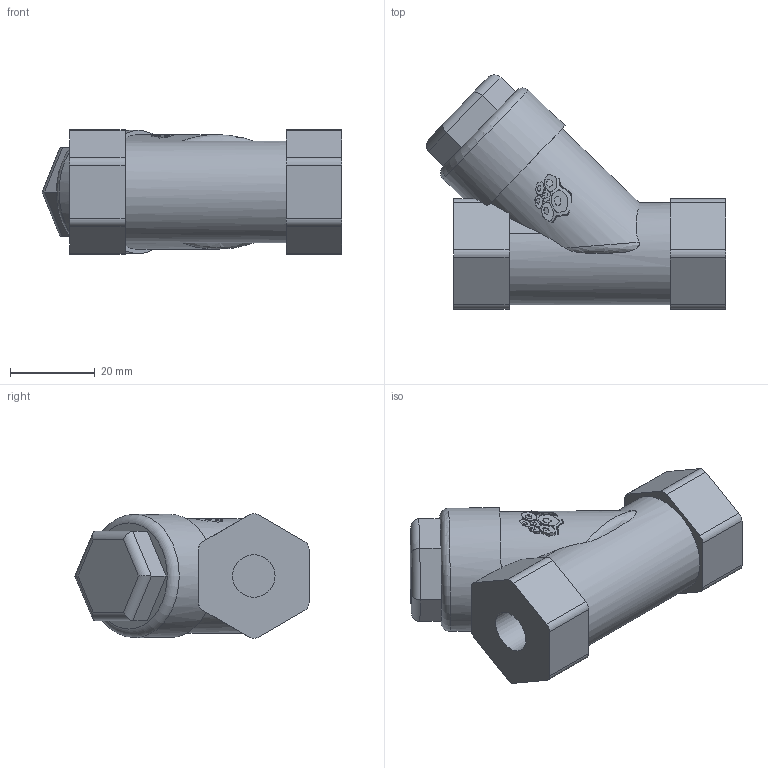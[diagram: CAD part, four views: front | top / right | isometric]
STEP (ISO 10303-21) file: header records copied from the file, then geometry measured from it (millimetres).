
FILE_DESCRIPTION(('STEP AP203'), '1');
FILE_NAME('3D_6460-008-40', '', ('UNSPECIFIED'), ('UNSPECIFIED'), 'C3D Converter', 'C3D Toolkit', '');
FILE_SCHEMA(('CONFIG_CONTROL_DESIGN'));
Length unit declared in the file: millimetre
Bounding box: 70.47 x 55.12 x 29.4 mm (x, y, z)
Volume: 50302.5 mm3; surface area: 10197.8 mm2
Topology: 1 solids, 1 shells, 881 faces, 2580 edges, 1719 vertices
Faces by surface type: plane 848, cylinder 30, bspline 2, torus 1
Full cylindrical faces by diameter (mm): 10 x2, 24 x1, 29 x1
Entity records: 37314 total; most frequent: CARTESIAN_POINT 9167, ORIENTED_EDGE 5150, DIRECTION 3555, EDGE_CURVE 2575, VERTEX_POINT 1719, LINE 1717, VECTOR 1717, AXIS2_PLACEMENT_3D 919
